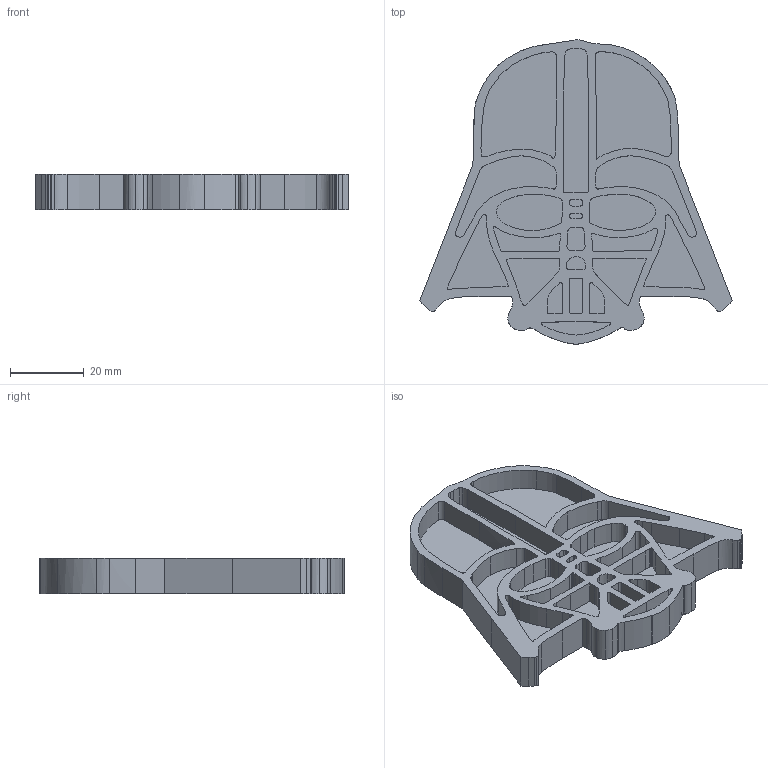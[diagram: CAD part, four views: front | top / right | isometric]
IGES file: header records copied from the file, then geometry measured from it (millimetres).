
Global section: file name: Darth Vader- Tormach Project v4; native system: unknown; preprocessor: unknown; author: unknown; organization: unknown; date: 20170108.005125; units: inch
Bounding box: 84.68 x 82.48 x 9.55 mm (x, y, z)
Volume: 26098.4 mm3; surface area: 17864.4 mm2
Topology: 1 solids, 1 shells, 403 faces, 1140 edges, 760 vertices
Faces by surface type: bspline 403
